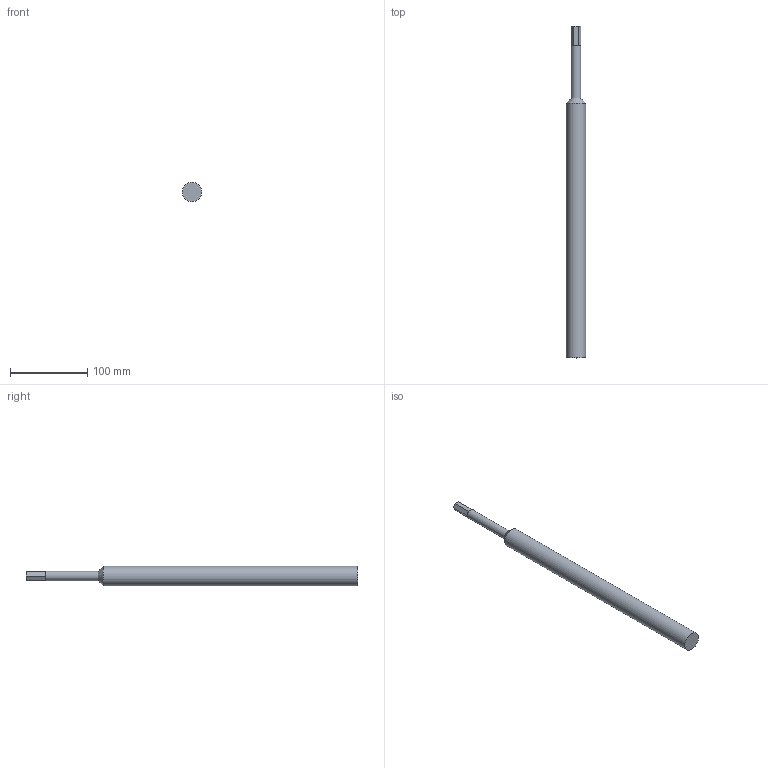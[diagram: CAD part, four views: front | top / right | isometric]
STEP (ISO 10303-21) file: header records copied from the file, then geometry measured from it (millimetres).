
FILE_DESCRIPTION(/* description */ ('STEP AP242 Edition 2','CAx-IF Rec.Pracs.---Representation and Presentation of Product Manufacturing Information (PMI)---4.0---2014-10-13','CAx-IF Rec.Pracs.---3D Tessellated Geometry---0.4---2014-09-14','2;1','CAx-IF Rec.Pracs.---User Defined Attributes---1.5---2016-08-15'),/* implementation_level */ '2;1');
FILE_NAME(/* name */ 'Assembly V2 - Auger',/* time_stamp */ '2026-02-05T22:44:36Z',/* author */ (''),/* organization */ (''),/* preprocessor_version */ 'ST-DEVELOPER v20',/* originating_system */ 'ONSHAPE BY PTC INC, 1.210',/* authorisation */ ' ');
FILE_SCHEMA (('AP242_MANAGED_MODEL_BASED_3D_ENGINEERING_MIM_LF { 1 0 10303 442 3 1 4 }'));
Length unit declared in the file: metre
Products named in the file (1): Auger
Bounding box: 25 x 430 x 25 mm (x, y, z)
Volume: 173892.9 mm3; surface area: 30538.8 mm2
Topology: 1 solids, 1 shells, 17 faces, 31 edges, 16 vertices
Faces by surface type: plane 14, cylinder 2, cone 1
Full cylindrical faces by diameter (mm): 12 x1, 25 x1
Entity records: 400 total; most frequent: DIRECTION 72, CARTESIAN_POINT 60, ORIENTED_EDGE 54, EDGE_CURVE 27, AXIS2_PLACEMENT_3D 27, EDGE_LOOP 20, FACE_BOUND 20, LINE 18
